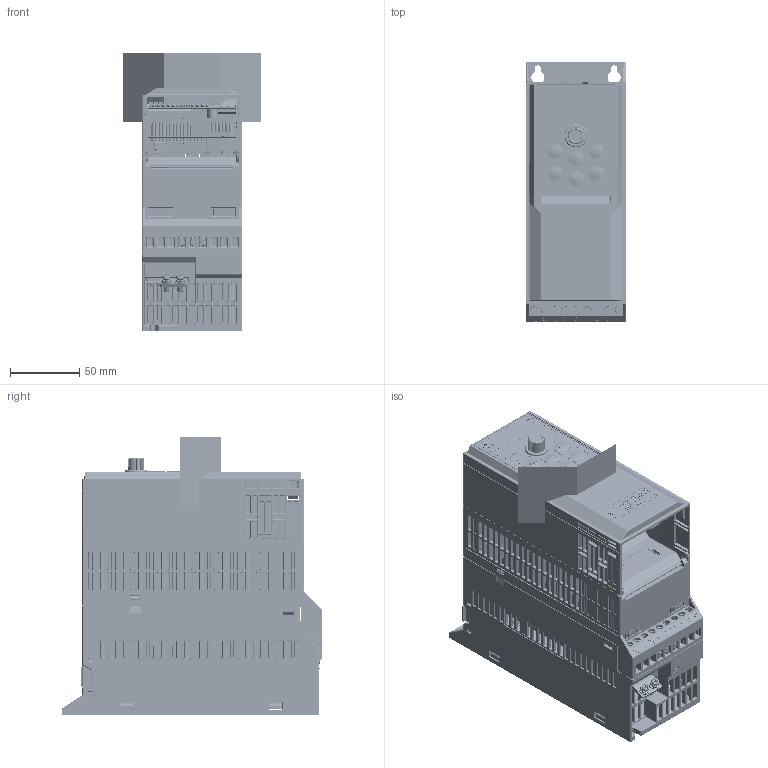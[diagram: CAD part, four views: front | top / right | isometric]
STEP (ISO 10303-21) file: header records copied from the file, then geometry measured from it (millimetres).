
FILE_DESCRIPTION((''),'2;1');
FILE_NAME('AD800-D1-DRIVE_ASM','2024-12-11T09:44:22',('Optimus drive'),(''),'CREO PARAMETRIC BY PTC INC, 2018100','CREO PARAMETRIC BY PTC INC, 2018100','');
FILE_SCHEMA(('CONFIG_CONTROL_DESIGN','GEOMETRIC_VALIDATION_PROPERTIES_MIM'));
Products named in the file (57): D1_MECHANICAL_PART; E0400127; E0400012; LED-90_HMD0; M0202003; AD800-D1-PU_ASM; M0104149; E0100736; E0400142; E0400150; E0400073; E0400116; E0400023; E0100736_ASM; E0200416; M0104143; E0400117; E0100735; 0603; SOT-23; SO-14; E0300000; SOD-6; E0300008; LQFP64; 1206; SMD3215-2P; 0805; SO-8; P3_5_3_2_; SMM0207; SOT-223; TO252; SC70-6; 1210; E0400035; E0400118; E0400011; E0100735_ASM; M0104016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
Assembly tree (373 placements, depth 5):
  AD800-D1-DRIVE_ASM
    AD800-D1-PU_ASM
      D1_MECHANICAL_PART
      E0400127
      E0400012
      LED-90_HMD0  x2
      M0202003  x2
    CU04-ASSY_ASM
      M0104149
      E0100736_ASM
        E0100736
        E0400142
        E0400150
        E0400073  x2
        E0400116
        E0400023
      E0200416
      M0104143
      E0400117
      E0100735_ASM
        E0100735
        0603  x193
        SOT-23  x51
        SO-14  x2
        E0300000
        SOD-6  x4
        E0300008  x2
        LQFP64
        E0400116
        1206  x32
        SMD3215-2P
        0805  x20
        SO-8  x2
        P3_5_3_2_
        SMM0207  x2
        SOT-223
        TO252
        SC70-6
        1210  x2
        E0400035
        E0400118
        E0400023
        E0400011
      EXTERNAL_KEYPAD_ASM
        M0104016
        M0104018
        E0100102_ASM
          E0100102
          0805-LED  x6
          E0300012
          E0200191
          E0200192
          E0400038  x6
          E0400035
          E0400011
        M0104017
        M0203163
      M0203158
      M0203159
      M0104150
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Bounding box: 100 x 188 x 200.2 mm (x, y, z)
Volume: 965702.4 mm3; surface area: 461903.9 mm2
Topology: 392 solids, 452 shells, 31026 faces, 80609 edges, 51488 vertices
Faces by surface type: plane 19145, cylinder 5968, bspline 2390, extrusion 1636, cone 959, torus 523, sphere 405
Entity records: 1094344 total; most frequent: CARTESIAN_POINT 284231, ORIENTED_EDGE 127410, DIRECTION 105356, EDGE_CURVE 63853, PRESENTATION_STYLE_ASSIGNMENT 60852, STYLED_ITEM 57994, CURVE_STYLE 52746, VECTOR 44702
